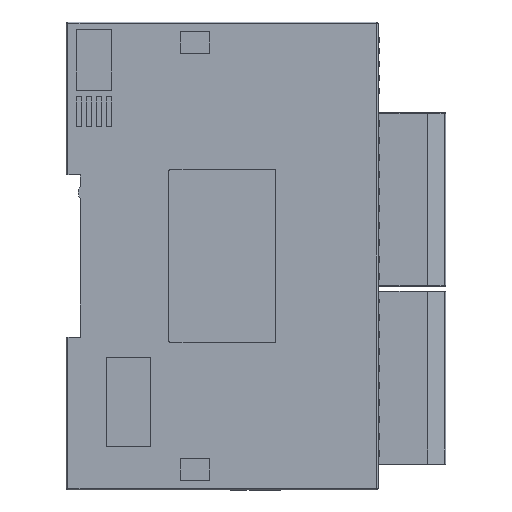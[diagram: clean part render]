
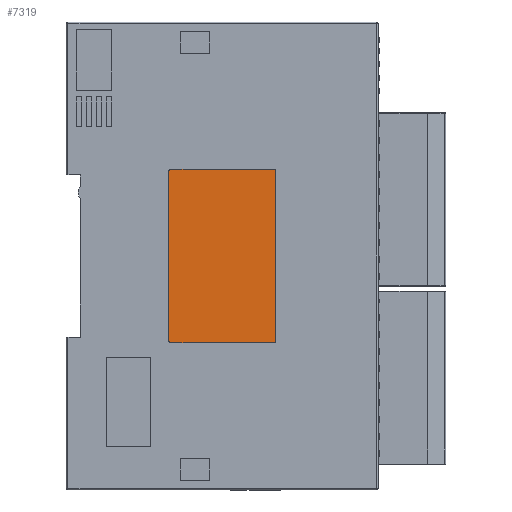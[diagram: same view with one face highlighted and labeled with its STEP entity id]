
A CAD part, left-side view. The second image highlights one B-rep face of the part: STEP entity #7319.
In plain terms, the highlighted planar face has unit normal (-1, 0, 0).
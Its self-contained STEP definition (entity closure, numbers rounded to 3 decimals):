
#7319=ADVANCED_FACE('',(#32583),#32585,.T.);
#32583=FACE_BOUND('',#32584,.T.);
#32584=EDGE_LOOP('',(#88732,#88733,#88734,#88735,#88736,#88737,#88738,#88739));
#32585=PLANE('',#32586);
#32586=AXIS2_PLACEMENT_3D('',#32587,#32588,#32589);
#32587=CARTESIAN_POINT('',(-296.41,-71.468,212.686));
#32588=DIRECTION('',(-1.,0.,0.));
#32589=DIRECTION('',(0.,0.,1.));
#88732=ORIENTED_EDGE('',*,*,#118561,.T.);
#88733=ORIENTED_EDGE('',*,*,#118562,.T.);
#88734=ORIENTED_EDGE('',*,*,#118563,.T.);
#88735=ORIENTED_EDGE('',*,*,#118564,.T.);
#88736=ORIENTED_EDGE('',*,*,#118565,.T.);
#88737=ORIENTED_EDGE('',*,*,#118566,.T.);
#88738=ORIENTED_EDGE('',*,*,#118567,.T.);
#88739=ORIENTED_EDGE('',*,*,#118568,.T.);
#118561=EDGE_CURVE('',#144787,#144788,#144789,.T.);
#118562=EDGE_CURVE('',#144788,#144790,#144791,.T.);
#118563=EDGE_CURVE('',#144790,#144792,#144793,.T.);
#118564=EDGE_CURVE('',#144792,#144794,#144795,.T.);
#118565=EDGE_CURVE('',#144794,#144796,#144797,.T.);
#118566=EDGE_CURVE('',#144796,#144798,#144799,.T.);
#118567=EDGE_CURVE('',#144798,#144800,#144801,.T.);
#118568=EDGE_CURVE('',#144800,#144787,#144802,.T.);
#144787=VERTEX_POINT('',#191598);
#144788=VERTEX_POINT('',#191599);
#144789=CIRCLE('',#191600,0.5);
#144790=VERTEX_POINT('',#191604);
#144791=LINE('',#191605,#191606);
#144792=VERTEX_POINT('',#191608);
#144793=CIRCLE('',#191609,0.5);
#144794=VERTEX_POINT('',#191613);
#144795=LINE('',#191614,#191615);
#144796=VERTEX_POINT('',#191617);
#144797=CIRCLE('',#191618,0.5);
#144798=VERTEX_POINT('',#191622);
#144799=LINE('',#191623,#191624);
#144800=VERTEX_POINT('',#191626);
#144801=CIRCLE('',#191627,0.5);
#144802=LINE('',#191631,#191632);
#191598=CARTESIAN_POINT('',(-296.41,-97.88,255.098));
#191599=CARTESIAN_POINT('',(-296.41,-97.38,255.598));
#191600=AXIS2_PLACEMENT_3D('',#191601,#191602,#191603);
#191601=CARTESIAN_POINT('',(-296.41,-97.38,255.098));
#191602=DIRECTION('',(-1.,0.,0.));
#191603=DIRECTION('',(0.,-1.,0.));
#191604=CARTESIAN_POINT('',(-296.41,-74.38,255.598));
#191605=CARTESIAN_POINT('',(-296.41,-97.38,255.598));
#191606=VECTOR('',#191607,1.);
#191607=DIRECTION('',(0.,1.,0.));
#191608=CARTESIAN_POINT('',(-296.41,-73.88,255.098));
#191609=AXIS2_PLACEMENT_3D('',#191610,#191611,#191612);
#191610=CARTESIAN_POINT('',(-296.41,-74.38,255.098));
#191611=DIRECTION('',(-1.,0.,0.));
#191612=DIRECTION('',(0.,0.,1.));
#191613=CARTESIAN_POINT('',(-296.41,-73.88,217.098));
#191614=CARTESIAN_POINT('',(-296.41,-73.88,255.098));
#191615=VECTOR('',#191616,1.);
#191616=DIRECTION('',(0.,0.,-1.));
#191617=CARTESIAN_POINT('',(-296.41,-74.38,216.598));
#191618=AXIS2_PLACEMENT_3D('',#191619,#191620,#191621);
#191619=CARTESIAN_POINT('',(-296.41,-74.38,217.098));
#191620=DIRECTION('',(-1.,0.,0.));
#191621=DIRECTION('',(0.,1.,0.));
#191622=CARTESIAN_POINT('',(-296.41,-97.38,216.598));
#191623=CARTESIAN_POINT('',(-296.41,-74.38,216.598));
#191624=VECTOR('',#191625,1.);
#191625=DIRECTION('',(0.,-1.,0.));
#191626=CARTESIAN_POINT('',(-296.41,-97.88,217.098));
#191627=AXIS2_PLACEMENT_3D('',#191628,#191629,#191630);
#191628=CARTESIAN_POINT('',(-296.41,-97.38,217.098));
#191629=DIRECTION('',(-1.,0.,0.));
#191630=DIRECTION('',(0.,0.,-1.));
#191631=CARTESIAN_POINT('',(-296.41,-97.88,217.098));
#191632=VECTOR('',#191633,1.);
#191633=DIRECTION('',(0.,0.,1.));
